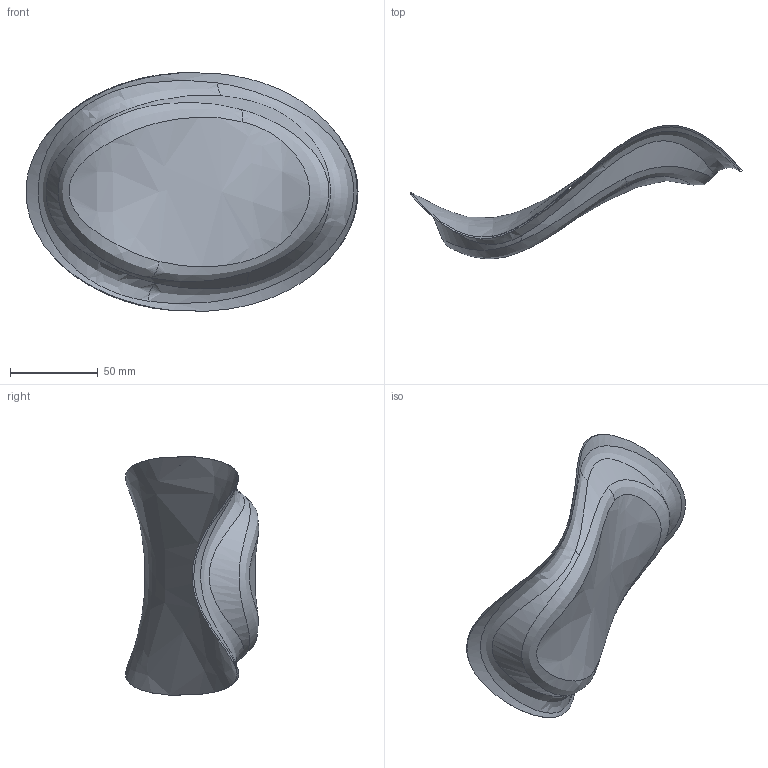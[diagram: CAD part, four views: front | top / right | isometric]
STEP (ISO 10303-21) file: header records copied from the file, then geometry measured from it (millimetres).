
FILE_DESCRIPTION (( 'STEP AP214' ), '1' );
FILE_NAME ('Ej06-v01.STEP', '2012-01-30T13:01:10', ( '' ), ( '' ), 'SwSTEP 2.0', 'SolidWorks 2011', '' );
FILE_SCHEMA (( 'AUTOMOTIVE_DESIGN' ));
Length unit declared in the file: millimetre
Products named in the file (3): Ej06-v01; Ej04_v01; Ej06_Predeterminado
Assembly tree (2 placements, depth 2):
  Ej06-v01
    Ej06_Predeterminado
    Ej04_v01
Bounding box: 189.5 x 76.1 x 136.15 mm (x, y, z)
Surface area: 49231.6 mm2 (no closed solid volume)
Topology: 0 solids, 2 shells, 9 faces, 22 edges, 16 vertices
Faces by surface type: bspline 9
Entity records: 7044 total; most frequent: CARTESIAN_POINT 6803, ORIENTED_EDGE 40, EDGE_CURVE 22, DIRECTION 18, B_SPLINE_CURVE_WITH_KNOTS 18, VERTEX_POINT 16, EDGE_LOOP 10, ADVANCED_FACE 9
